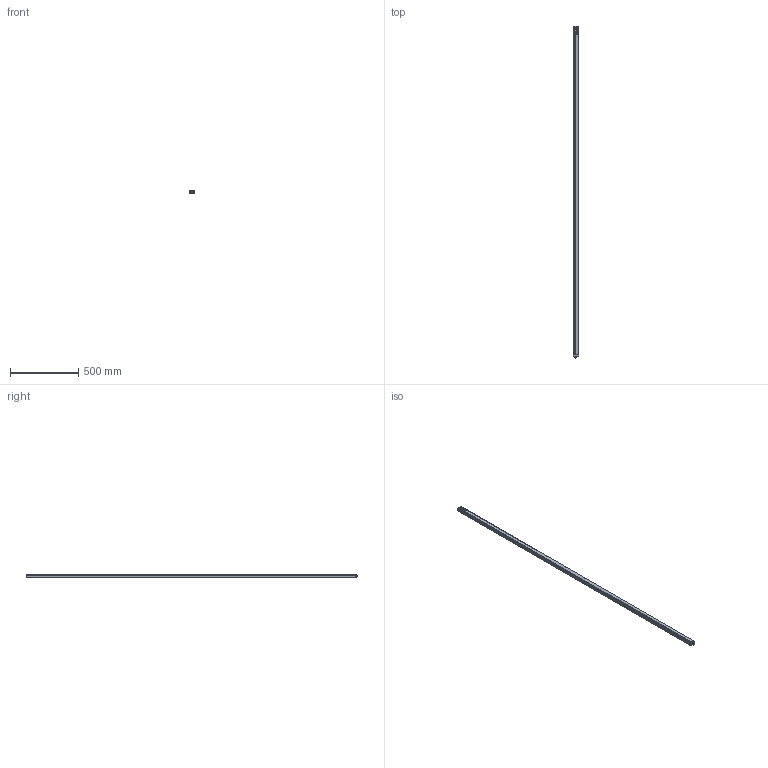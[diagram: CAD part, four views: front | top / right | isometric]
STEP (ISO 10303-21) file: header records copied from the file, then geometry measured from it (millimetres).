
FILE_DESCRIPTION(/* description */ (''),/* implementation_level */ '2;1');
FILE_NAME(/* name */ 'C:\Users\andre\SynologyDrive\Optoscan\Libreria Componenti\00 - Barriere\Polaris sorgente\Polaris_2400_TX.stp',/* time_stamp */ '2021-06-04T11:29:14+02:00',/* author */ ('andre'),/* organization */ (''),/* preprocessor_version */ 'ST-DEVELOPER v18',/* originating_system */ 'Autodesk Inventor 2020',/* authorisation */ '');
FILE_SCHEMA (('AUTOMOTIVE_DESIGN { 1 0 10303 214 3 1 1 }'));
Length unit declared in the file: millimetre
Products named in the file (1): Polaris_2400_TX
Bounding box: 40.5 x 2432.8 x 20.75 mm (x, y, z)
Volume: 477356.5 mm3; surface area: 632239.9 mm2
Topology: 1 solids, 1 shells, 738 faces, 2048 edges, 1320 vertices
Faces by surface type: plane 331, cylinder 207, bspline 115, torus 71, cone 8, sphere 6
Full cylindrical faces by diameter (mm): 1 x8, 2.459 x4, 2.5 x4, 3 x4, 3.5 x4, 5.5 x4, 8 x1, 10.5 x2, 11.75 x9, 12 x1, 12.3 x2, 14.5 x1, 16.7 x1, 17.5 x1
Entity records: 30426 total; most frequent: CARTESIAN_POINT 11243, ORIENTED_EDGE 4082, DIRECTION 3549, EDGE_CURVE 2041, VERTEX_POINT 1321, AXIS2_PLACEMENT_3D 1243, LINE 1063, VECTOR 1063
